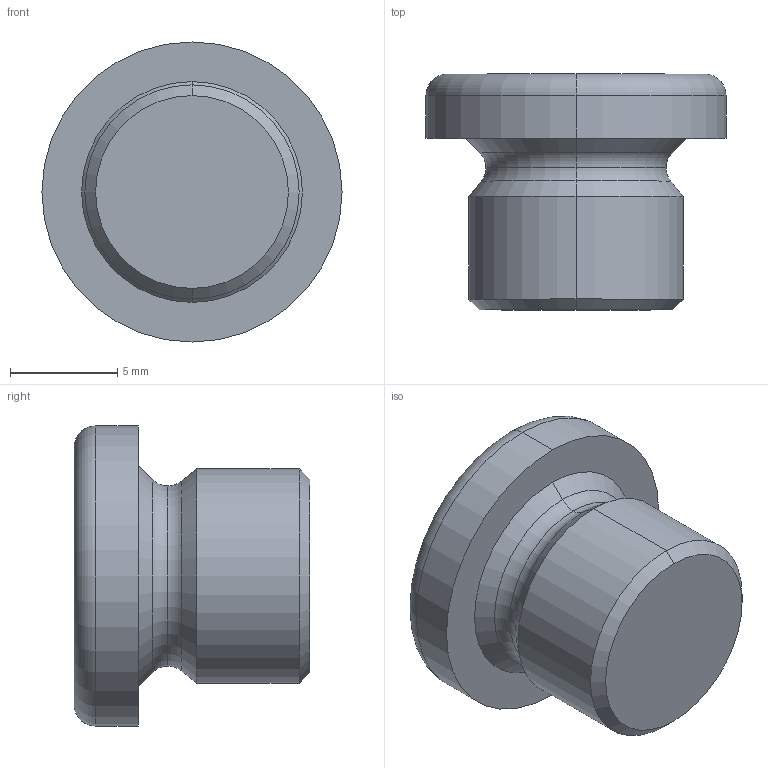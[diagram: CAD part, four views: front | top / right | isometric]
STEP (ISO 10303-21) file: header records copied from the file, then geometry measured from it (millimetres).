
FILE_DESCRIPTION (( 'STEP AP214' ), '1' );
FILE_NAME ('908-A4-M10x1-A.step', '2024-12-19T09:18:14', ( '' ), ( '' ), 'SwSTEP 2.0', 'SolidWorks 2022', '' );
FILE_SCHEMA (( 'AUTOMOTIVE_DESIGN' ));
Length unit declared in the file: millimetre
Products named in the file (1): 908-A4-M10x1-A
Bounding box: 14 x 11 x 14 mm (x, y, z)
Volume: 931.1 mm3; surface area: 753.8 mm2
Topology: 1 solids, 1 shells, 26 faces, 54 edges, 32 vertices
Faces by surface type: plane 10, torus 6, cone 6, cylinder 4
Entity records: 744 total; most frequent: DIRECTION 134, CARTESIAN_POINT 113, ORIENTED_EDGE 108, EDGE_CURVE 54, AXIS2_PLACEMENT_3D 53, VERTEX_POINT 32, EDGE_LOOP 28, VECTOR 28
